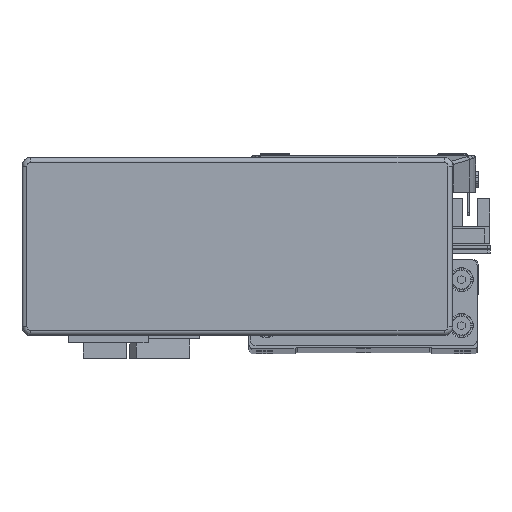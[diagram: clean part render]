
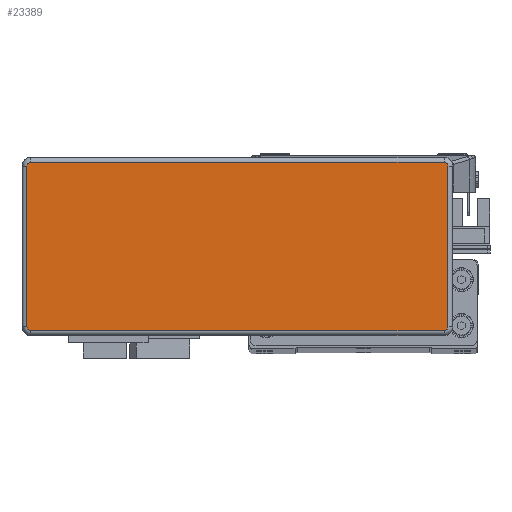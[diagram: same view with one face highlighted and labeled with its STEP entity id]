
A CAD part, top view. The second image highlights one B-rep face of the part: STEP entity #23389.
In plain terms, the highlighted planar face has unit normal (0, 0, 1) as drawn and (0, 0, -1) by its records, which use the part's own axes.
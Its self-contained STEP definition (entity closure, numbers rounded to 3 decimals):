
#1434 = AXIS2_PLACEMENT_3D ( 'NONE', #29522, #29505, #29509 ) ;
#2704 = AXIS2_PLACEMENT_3D ( 'NONE', #35212, #35206, #35220 ) ;
#2763 = AXIS2_PLACEMENT_3D ( 'NONE', #35326, #35303, #35290 ) ;
#2788 = AXIS2_PLACEMENT_3D ( 'NONE', #35339, #35330, #35331 ) ;
#2789 = AXIS2_PLACEMENT_3D ( 'NONE', #35410, #35396, #35407 ) ;
#8895 = ORIENTED_EDGE ( 'NONE', *, *, #40956, .T. ) ;
#8897 = ORIENTED_EDGE ( 'NONE', *, *, #40971, .T. ) ;
#8917 = ORIENTED_EDGE ( 'NONE', *, *, #40957, .T. ) ;
#8919 = ORIENTED_EDGE ( 'NONE', *, *, #40933, .T. ) ;
#8939 = ORIENTED_EDGE ( 'NONE', *, *, #40906, .T. ) ;
#8975 = ORIENTED_EDGE ( 'NONE', *, *, #40948, .T. ) ;
#8991 = ORIENTED_EDGE ( 'NONE', *, *, #40963, .T. ) ;
#9055 = ORIENTED_EDGE ( 'NONE', *, *, #40920, .T. ) ;
#11539 = EDGE_LOOP ( 'NONE', ( #9055, #8975, #8991, #8939, #8897, #8919, #8917, #8895 ) ) ;
#23389 = ADVANCED_FACE ( 'NONE', ( #30131 ), #29521, .F. ) ;
#29505 = DIRECTION ( 'NONE',  ( 0., 0., 1. ) ) ;
#29509 = DIRECTION ( 'NONE',  ( 1., 0., 0. ) ) ;
#29521 = PLANE ( 'NONE',  #1434 ) ;
#29522 = CARTESIAN_POINT ( 'NONE',  ( 71.995, -27.995, -32.2 ) ) ;
#30131 = FACE_OUTER_BOUND ( 'NONE', #11539, .T. ) ;
#33968 = VECTOR ( 'NONE', #35246, 1000. ) ;
#33997 = CIRCLE ( 'NONE', #2704, 1.3 ) ;
#34014 = LINE ( 'NONE', #35283, #33968 ) ;
#34025 = VECTOR ( 'NONE', #35343, 1000. ) ;
#34026 = VECTOR ( 'NONE', #35395, 1000. ) ;
#34044 = CIRCLE ( 'NONE', #2789, 1.3 ) ;
#34050 = CIRCLE ( 'NONE', #2788, 1.3 ) ;
#34057 = VECTOR ( 'NONE', #35388, 1000. ) ;
#34061 = CIRCLE ( 'NONE', #2763, 1.3 ) ;
#34064 = LINE ( 'NONE', #35365, #34025 ) ;
#34065 = LINE ( 'NONE', #35385, #34057 ) ;
#34083 = LINE ( 'NONE', #35404, #34026 ) ;
#35206 = DIRECTION ( 'NONE',  ( 0., 0., -1. ) ) ;
#35212 = CARTESIAN_POINT ( 'NONE',  ( -71.995, -27.995, -32.2 ) ) ;
#35220 = DIRECTION ( 'NONE',  ( 1., 0., 0. ) ) ;
#35246 = DIRECTION ( 'NONE',  ( 0., -1., 0. ) ) ;
#35283 = CARTESIAN_POINT ( 'NONE',  ( 73.295, -27.995, -32.2 ) ) ;
#35290 = DIRECTION ( 'NONE',  ( 1., 0., 0. ) ) ;
#35303 = DIRECTION ( 'NONE',  ( 0., 0., -1. ) ) ;
#35326 = CARTESIAN_POINT ( 'NONE',  ( -71.995, 27.995, -32.2 ) ) ;
#35330 = DIRECTION ( 'NONE',  ( 0., 0., -1. ) ) ;
#35331 = DIRECTION ( 'NONE',  ( 1., 0., 0. ) ) ;
#35339 = CARTESIAN_POINT ( 'NONE',  ( 71.995, -27.995, -32.2 ) ) ;
#35343 = DIRECTION ( 'NONE',  ( 1., 0., 0. ) ) ;
#35365 = CARTESIAN_POINT ( 'NONE',  ( 71.995, 29.295, -32.2 ) ) ;
#35385 = CARTESIAN_POINT ( 'NONE',  ( 71.995, -29.295, -32.2 ) ) ;
#35388 = DIRECTION ( 'NONE',  ( -1., 0., 0. ) ) ;
#35395 = DIRECTION ( 'NONE',  ( 0., 1., 0. ) ) ;
#35396 = DIRECTION ( 'NONE',  ( 0., 0., -1. ) ) ;
#35404 = CARTESIAN_POINT ( 'NONE',  ( -73.295, -27.995, -32.2 ) ) ;
#35407 = DIRECTION ( 'NONE',  ( 1., 0., 0. ) ) ;
#35410 = CARTESIAN_POINT ( 'NONE',  ( 71.995, 27.995, -32.2 ) ) ;
#37114 = CARTESIAN_POINT ( 'NONE',  ( -71.995, -29.295, -32.2 ) ) ;
#37142 = CARTESIAN_POINT ( 'NONE',  ( 71.995, -29.295, -32.2 ) ) ;
#37154 = CARTESIAN_POINT ( 'NONE',  ( 73.295, 27.995, -32.2 ) ) ;
#37176 = CARTESIAN_POINT ( 'NONE',  ( -73.295, -27.995, -32.2 ) ) ;
#37178 = CARTESIAN_POINT ( 'NONE',  ( 71.995, 29.295, -32.2 ) ) ;
#37213 = CARTESIAN_POINT ( 'NONE',  ( -73.295, 27.995, -32.2 ) ) ;
#37215 = CARTESIAN_POINT ( 'NONE',  ( 73.295, -27.995, -32.2 ) ) ;
#37232 = CARTESIAN_POINT ( 'NONE',  ( -71.995, 29.295, -32.2 ) ) ;
#40906 = EDGE_CURVE ( 'NONE', #42846, #42905, #33997, .T. ) ;
#40920 = EDGE_CURVE ( 'NONE', #42873, #42914, #34014, .T. ) ;
#40933 = EDGE_CURVE ( 'NONE', #42918, #42959, #34061, .T. ) ;
#40948 = EDGE_CURVE ( 'NONE', #42914, #42858, #34050, .T. ) ;
#40956 = EDGE_CURVE ( 'NONE', #42881, #42873, #34044, .T. ) ;
#40957 = EDGE_CURVE ( 'NONE', #42959, #42881, #34064, .T. ) ;
#40963 = EDGE_CURVE ( 'NONE', #42858, #42846, #34065, .T. ) ;
#40971 = EDGE_CURVE ( 'NONE', #42905, #42918, #34083, .T. ) ;
#42846 = VERTEX_POINT ( 'NONE', #37114 ) ;
#42858 = VERTEX_POINT ( 'NONE', #37142 ) ;
#42873 = VERTEX_POINT ( 'NONE', #37154 ) ;
#42881 = VERTEX_POINT ( 'NONE', #37178 ) ;
#42905 = VERTEX_POINT ( 'NONE', #37176 ) ;
#42914 = VERTEX_POINT ( 'NONE', #37215 ) ;
#42918 = VERTEX_POINT ( 'NONE', #37213 ) ;
#42959 = VERTEX_POINT ( 'NONE', #37232 ) ;
